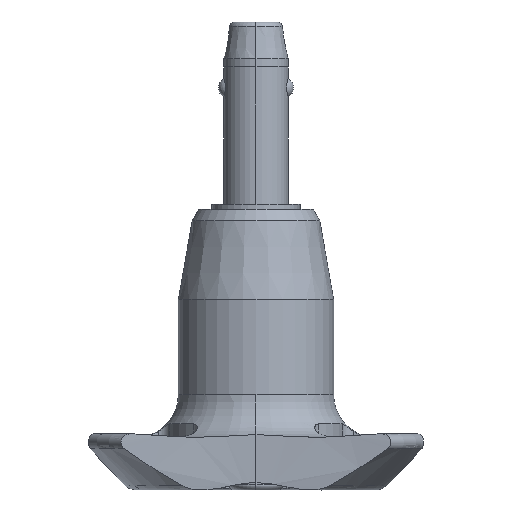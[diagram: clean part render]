
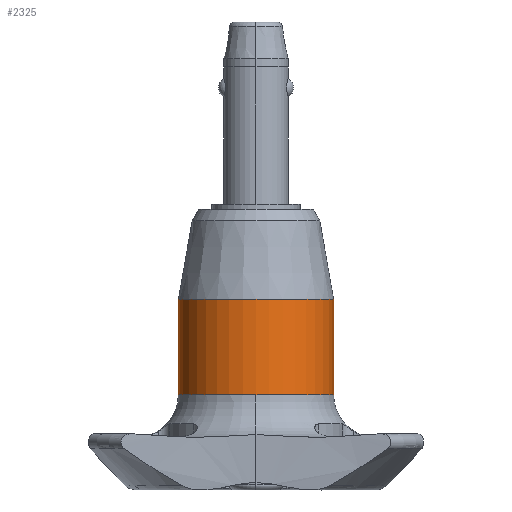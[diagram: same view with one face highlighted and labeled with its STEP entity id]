
A CAD part, left-side view. The second image highlights one B-rep face of the part: STEP entity #2325.
In plain terms, the highlighted cylindrical face has radius 7.25 mm (diameter 14.5 mm), a partial arc.
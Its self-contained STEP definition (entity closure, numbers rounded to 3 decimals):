
#47 = CARTESIAN_POINT ( 'NONE',  ( 0., 7.25, -27.8 ) ) ;
#50 = VERTEX_POINT ( 'NONE', #47 ) ;
#147 = VERTEX_POINT ( 'NONE', #1818 ) ;
#173 = DIRECTION ( 'NONE',  ( 0., 0., -1. ) ) ;
#179 = CARTESIAN_POINT ( 'NONE',  ( 0., 0., -18.9 ) ) ;
#180 = DIRECTION ( 'NONE',  ( 0., 1., 0. ) ) ;
#202 = VECTOR ( 'NONE', #888, 1000. ) ;
#376 = ORIENTED_EDGE ( 'NONE', *, *, #1053, .T. ) ;
#399 = DIRECTION ( 'NONE',  ( 0., 0., -1. ) ) ;
#411 = EDGE_CURVE ( 'NONE', #857, #2171, #1802, .T. ) ;
#597 = CARTESIAN_POINT ( 'NONE',  ( 0., 0., -27.8 ) ) ;
#694 = DIRECTION ( 'NONE',  ( 0., 1., 0. ) ) ;
#789 = VECTOR ( 'NONE', #938, 1000. ) ;
#805 = DIRECTION ( 'NONE',  ( 0., 1., 0. ) ) ;
#822 = ORIENTED_EDGE ( 'NONE', *, *, #2415, .T. ) ;
#857 = VERTEX_POINT ( 'NONE', #1238 ) ;
#875 = EDGE_CURVE ( 'NONE', #1720, #50, #1744, .T. ) ;
#888 = DIRECTION ( 'NONE',  ( 0., 0., -1. ) ) ;
#938 = DIRECTION ( 'NONE',  ( 0., 0., -1. ) ) ;
#979 = CIRCLE ( 'NONE', #2118, 7.25 ) ;
#1014 = AXIS2_PLACEMENT_3D ( 'NONE', #179, #1246, #805 ) ;
#1022 = CARTESIAN_POINT ( 'NONE',  ( 0., -7.25, -27.8 ) ) ;
#1053 = EDGE_CURVE ( 'NONE', #857, #147, #1104, .T. ) ;
#1104 = CIRCLE ( 'NONE', #1014, 7.25 ) ;
#1171 = DIRECTION ( 'NONE',  ( 0., 0., -1. ) ) ;
#1238 = CARTESIAN_POINT ( 'NONE',  ( 0., -7.25, -18.9 ) ) ;
#1246 = DIRECTION ( 'NONE',  ( 0., 0., -1. ) ) ;
#1377 = LINE ( 'NONE', #1970, #202 ) ;
#1468 = DIRECTION ( 'NONE',  ( 0., 1., 0. ) ) ;
#1479 = AXIS2_PLACEMENT_3D ( 'NONE', #597, #173, #1468 ) ;
#1720 = VERTEX_POINT ( 'NONE', #2002 ) ;
#1727 = CARTESIAN_POINT ( 'NONE',  ( 0., 0., -27.8 ) ) ;
#1743 = AXIS2_PLACEMENT_3D ( 'NONE', #1727, #399, #180 ) ;
#1744 = CIRCLE ( 'NONE', #1479, 7.25 ) ;
#1802 = LINE ( 'NONE', #2670, #789 ) ;
#1818 = CARTESIAN_POINT ( 'NONE',  ( 0., 7.25, -18.9 ) ) ;
#1895 = EDGE_LOOP ( 'NONE', ( #2315, #376, #822, #2153, #2782 ) ) ;
#1970 = CARTESIAN_POINT ( 'NONE',  ( 0., 7.25, -27.8 ) ) ;
#2002 = CARTESIAN_POINT ( 'NONE',  ( -7.25, 0., -27.8 ) ) ;
#2118 = AXIS2_PLACEMENT_3D ( 'NONE', #2241, #1171, #694 ) ;
#2153 = ORIENTED_EDGE ( 'NONE', *, *, #875, .F. ) ;
#2167 = FACE_OUTER_BOUND ( 'NONE', #1895, .T. ) ;
#2171 = VERTEX_POINT ( 'NONE', #1022 ) ;
#2241 = CARTESIAN_POINT ( 'NONE',  ( 0., 0., -27.8 ) ) ;
#2315 = ORIENTED_EDGE ( 'NONE', *, *, #411, .F. ) ;
#2325 = ADVANCED_FACE ( 'NONE', ( #2167 ), #2805, .T. ) ;
#2415 = EDGE_CURVE ( 'NONE', #147, #50, #1377, .T. ) ;
#2670 = CARTESIAN_POINT ( 'NONE',  ( 0., -7.25, -27.8 ) ) ;
#2770 = EDGE_CURVE ( 'NONE', #2171, #1720, #979, .T. ) ;
#2782 = ORIENTED_EDGE ( 'NONE', *, *, #2770, .F. ) ;
#2805 = CYLINDRICAL_SURFACE ( 'NONE', #1743, 7.25 ) ;
